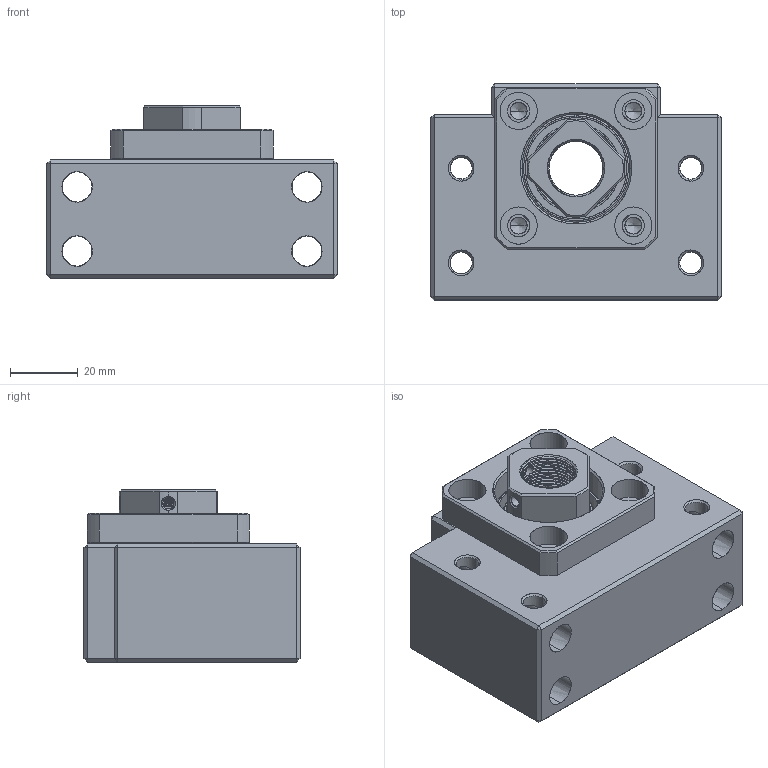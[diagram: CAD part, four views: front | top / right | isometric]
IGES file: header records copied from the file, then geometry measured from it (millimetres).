
Start section: SolidWorks IGES file using analytic representation for surfaces
Global section: file name: Z:\Accessories\_GC_!!!\SYK\Support unit\BK\BK17.IGS; native system: SolidWorks 2015; preprocessor: SolidWorks 2015; author: User; date: 170504.145012; units: millimetre
Bounding box: 86 x 64 x 51 mm (x, y, z)
Surface area: 65581.1 mm2 (no closed solid volume)
Topology: 0 solids, 0 shells, 562 faces, 11296 edges, 11193 vertices
Faces by surface type: revolution 291, bspline 271
